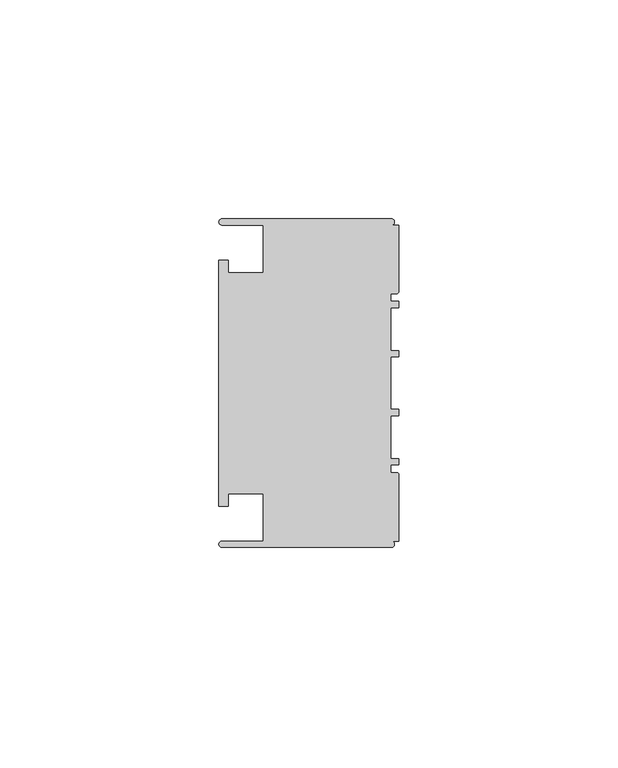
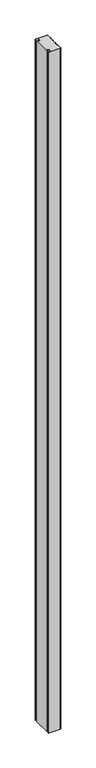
"""IFC4 building model written with IfcOpenShell, lengths in millimetres: member geometry, Прямоугольный импост : 3-AMG-2-Профиль 40Х75 Низ Л."""

from ifc_helpers import new_model, si_unit, point, frame, frame_2d, origin, place, context, project, spatial, polyline, circle_curve, trimmed, segment, composite_curve, outline, extrude, source, transform, mapped, element, save


def member_0cb69054(model_context):
    return source(origin(), model_context, "Body", "SweptSolid", [
        extrude(outline(composite_curve([segment(polyline([(-1.7, -37.5), (-40.4, -37.5)]), True, "CONTINUOUS"), segment(trimmed(circle_curve(frame_2d((-40.4, -36.8)), 0.7), [point((-40.4, -37.5))], [point((-40.4, -36.1))], False, "CARTESIAN"), True, "CONTINUOUS"), segment(polyline([(-40.4, -36.1), (-31.0, -36.1), (-31.0, -25.25), (-39.0, -25.25), (-39.0, -28.1), (-41.1, -28.1), (-41.1, 28.1), (-39.0, 28.1), (-39.0, 25.25), (-31.0, 25.25), (-31.0, 36.1), (-40.4, 36.1)]), True, "CONTINUOUS"), segment(trimmed(circle_curve(frame_2d((-40.4, 36.8)), 0.7), [point((-40.4, 36.1))], [point((-40.4, 37.5))], False, "CARTESIAN"), True, "CONTINUOUS"), segment(polyline([(-40.4, 37.5), (-1.7, 37.5)]), True, "CONTINUOUS"), segment(trimmed(circle_curve(frame_2d((-1.7, 36.8)), 0.7), [point((-1.7, 37.5))], [point((-1.7, 36.1))], False, "CARTESIAN"), True, "CONTINUOUS"), segment(polyline([(-1.7, 36.1), (0.0, 36.1), (0.0, 20.95)]), True, "CONTINUOUS"), segment(trimmed(circle_curve(frame_2d((-0.5, 20.95)), 0.5), [point((0.0, 20.95))], [point((-0.5, 20.45))], False, "CARTESIAN"), True, "CONTINUOUS"), segment(polyline([(-0.5, 20.45), (-1.8, 20.45), (-1.8, 18.65), (0.0, 18.65), (0.0, 17.25), (-1.8, 17.25), (-1.8, 7.4), (0.0, 7.4), (0.0, 6.0), (-1.8, 6.0), (-1.8, -6.0), (0.0, -6.0), (0.0, -7.4), (-1.8, -7.4), (-1.8, -17.25), (0.0, -17.25), (0.0, -18.65), (-1.8, -18.65), (-1.8, -20.45), (-0.5, -20.45)]), True, "CONTINUOUS"), segment(trimmed(circle_curve(frame_2d((-0.5, -20.95)), 0.5), [point((-0.5, -20.45))], [point((0.0, -20.95))], False, "CARTESIAN"), True, "CONTINUOUS"), segment(polyline([(0.0, -20.95), (0.0, -36.1), (-1.7, -36.1)]), True, "CONTINUOUS"), segment(trimmed(circle_curve(frame_2d((-1.7, -36.8)), 0.7), [point((-1.7, -36.1))], [point((-1.7, -37.5))], False, "CARTESIAN"), True, "CONTINUOUS")], self_intersect=False)), frame((0.0, 0.0, -2340.0), z_axis=(0.0, 0.0, 1.0), x_axis=(1.0, 0.0, 0.0)), (0.0, 0.0, 1.0), 2340.0),
    ])


if __name__ == "__main__":
    model = new_model("IFC4")
    model_context = context("Model", 3, world=origin())
    ifc_project = project(units=[si_unit("LENGTHUNIT", "METRE", prefix="MILLI")], contexts=[model_context])
    site = spatial("IfcSite", under=ifc_project)
    building = spatial("IfcBuilding", under=site)
    placement = place(None, origin())
    member_shape = member_0cb69054(model_context)
    element("IfcMember", 1, ObjectType="Прямоугольный импост : 3-AMG-2-Профиль 40Х75 Низ Л", at=placement, inside=building, context=model_context, shape_type="MappedRepresentation", body=[
        mapped(member_shape, transform((0.0, 0.0, 0.0), x_axis=(1.0, 0.0, 0.0), y_axis=(0.0, 1.0, 0.0), z_axis=(0.0, 0.0, 1.0))),
    ])
    save(model, "model.ifc")
